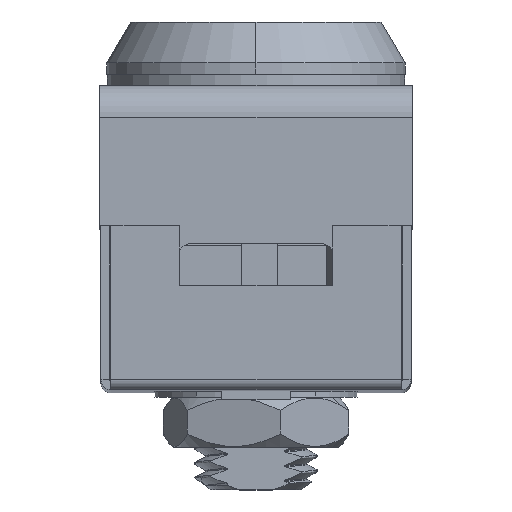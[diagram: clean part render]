
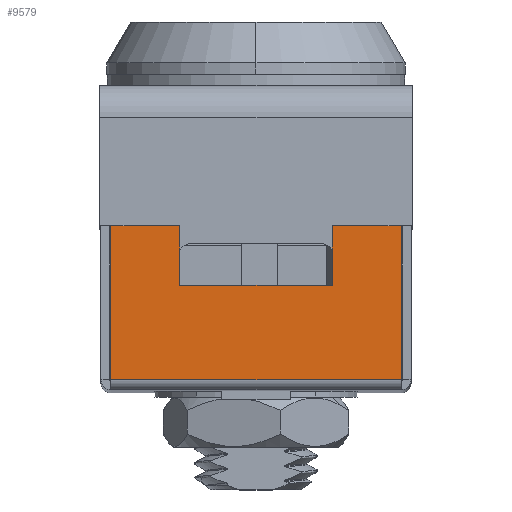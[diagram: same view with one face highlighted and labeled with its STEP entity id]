
A CAD part, top view. The second image highlights one B-rep face of the part: STEP entity #9579.
In plain terms, the highlighted planar face has unit normal (0, 0, 1).
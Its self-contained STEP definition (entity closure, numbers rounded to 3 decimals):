
#4315 = VERTEX_POINT ( 'NONE', #67971 ) ;
#6453 = VERTEX_POINT ( 'NONE', #67966 ) ;
#7422 = ORIENTED_EDGE ( 'NONE', *, *, #7455, .T. ) ;
#7445 = VERTEX_POINT ( 'NONE', #68022 ) ;
#7451 = ORIENTED_EDGE ( 'NONE', *, *, #7552, .T. ) ;
#7455 = EDGE_CURVE ( 'NONE', #8018, #7680, #68021, .T. ) ;
#7459 = EDGE_CURVE ( 'NONE', #6453, #7445, #68017, .T. ) ;
#7552 = EDGE_CURVE ( 'NONE', #7680, #7445, #68013, .T. ) ;
#7559 = ORIENTED_EDGE ( 'NONE', *, *, #7459, .F. ) ;
#7680 = VERTEX_POINT ( 'NONE', #68009 ) ;
#7933 = VERTEX_POINT ( 'NONE', #68008 ) ;
#8018 = VERTEX_POINT ( 'NONE', #68007 ) ;
#8196 = EDGE_CURVE ( 'NONE', #8018, #7933, #68006, .T. ) ;
#8962 = EDGE_LOOP ( 'NONE', ( #9046, #7422, #7451, #7559, #10579, #10561, #10537, #10576 ) ) ;
#9046 = ORIENTED_EDGE ( 'NONE', *, *, #8196, .F. ) ;
#9579 = ADVANCED_FACE ( 'NONE', ( #67996 ), #67995, .F. ) ;
#10537 = ORIENTED_EDGE ( 'NONE', *, *, #10631, .F. ) ;
#10561 = ORIENTED_EDGE ( 'NONE', *, *, #10633, .T. ) ;
#10576 = ORIENTED_EDGE ( 'NONE', *, *, #10578, .F. ) ;
#10578 = EDGE_CURVE ( 'NONE', #7933, #10589, #68048, .T. ) ;
#10579 = ORIENTED_EDGE ( 'NONE', *, *, #10624, .T. ) ;
#10589 = VERTEX_POINT ( 'NONE', #68044 ) ;
#10614 = VERTEX_POINT ( 'NONE', #68043 ) ;
#10624 = EDGE_CURVE ( 'NONE', #6453, #4315, #68042, .T. ) ;
#10631 = EDGE_CURVE ( 'NONE', #10589, #10614, #68038, .T. ) ;
#10633 = EDGE_CURVE ( 'NONE', #4315, #10614, #68034, .T. ) ;
#67966 = CARTESIAN_POINT ( 'NONE',  ( 12.165, 0.1, 80.737 ) ) ;
#67971 = CARTESIAN_POINT ( 'NONE',  ( 12.165, 13., 80.737 ) ) ;
#67994 = AXIS2_PLACEMENT_3D ( 'NONE', #68056, #68055, #68054 ) ;
#67995 = PLANE ( 'NONE',  #67994 ) ;
#67996 = FACE_OUTER_BOUND ( 'NONE', #8962, .T. ) ;
#68003 = DIRECTION ( 'NONE',  ( 0., -1., 0. ) ) ;
#68004 = VECTOR ( 'NONE', #68003, 1000. ) ;
#68005 = CARTESIAN_POINT ( 'NONE',  ( -6.4, 13., 80.737 ) ) ;
#68006 = LINE ( 'NONE', #68005, #68004 ) ;
#68007 = CARTESIAN_POINT ( 'NONE',  ( -6.4, 13., 80.737 ) ) ;
#68008 = CARTESIAN_POINT ( 'NONE',  ( -6.4, 8., 80.737 ) ) ;
#68009 = CARTESIAN_POINT ( 'NONE',  ( -12.165, 13., 80.737 ) ) ;
#68010 = DIRECTION ( 'NONE',  ( 0., -1., 0. ) ) ;
#68011 = VECTOR ( 'NONE', #68010, 1000. ) ;
#68012 = CARTESIAN_POINT ( 'NONE',  ( -12.165, 0., 80.737 ) ) ;
#68013 = LINE ( 'NONE', #68012, #68011 ) ;
#68014 = DIRECTION ( 'NONE',  ( -1., 0., 0. ) ) ;
#68015 = VECTOR ( 'NONE', #68014, 1000. ) ;
#68016 = CARTESIAN_POINT ( 'NONE',  ( -12.165, 0.1, 80.737 ) ) ;
#68017 = LINE ( 'NONE', #68016, #68015 ) ;
#68018 = DIRECTION ( 'NONE',  ( -1., 0., 0. ) ) ;
#68019 = VECTOR ( 'NONE', #68018, 1000. ) ;
#68020 = CARTESIAN_POINT ( 'NONE',  ( -12.165, 13., 80.737 ) ) ;
#68021 = LINE ( 'NONE', #68020, #68019 ) ;
#68022 = CARTESIAN_POINT ( 'NONE',  ( -12.165, 0.1, 80.737 ) ) ;
#68031 = DIRECTION ( 'NONE',  ( -1., 0., 0. ) ) ;
#68032 = VECTOR ( 'NONE', #68031, 1000. ) ;
#68033 = CARTESIAN_POINT ( 'NONE',  ( -12.165, 13., 80.737 ) ) ;
#68034 = LINE ( 'NONE', #68033, #68032 ) ;
#68035 = DIRECTION ( 'NONE',  ( 0., 1., 0. ) ) ;
#68036 = VECTOR ( 'NONE', #68035, 1000. ) ;
#68037 = CARTESIAN_POINT ( 'NONE',  ( 6.4, 13., 80.737 ) ) ;
#68038 = LINE ( 'NONE', #68037, #68036 ) ;
#68039 = DIRECTION ( 'NONE',  ( 0., 1., 0. ) ) ;
#68040 = VECTOR ( 'NONE', #68039, 1000. ) ;
#68041 = CARTESIAN_POINT ( 'NONE',  ( 12.165, 13., 80.737 ) ) ;
#68042 = LINE ( 'NONE', #68041, #68040 ) ;
#68043 = CARTESIAN_POINT ( 'NONE',  ( 6.4, 13., 80.737 ) ) ;
#68044 = CARTESIAN_POINT ( 'NONE',  ( 6.4, 8., 80.737 ) ) ;
#68045 = DIRECTION ( 'NONE',  ( 1., 0., 0. ) ) ;
#68046 = VECTOR ( 'NONE', #68045, 1000. ) ;
#68047 = CARTESIAN_POINT ( 'NONE',  ( -12.165, 8., 80.737 ) ) ;
#68048 = LINE ( 'NONE', #68047, #68046 ) ;
#68054 = DIRECTION ( 'NONE',  ( -1., 0., 0. ) ) ;
#68055 = DIRECTION ( 'NONE',  ( 0., 0., -1. ) ) ;
#68056 = CARTESIAN_POINT ( 'NONE',  ( -12.165, 13., 80.737 ) ) ;
